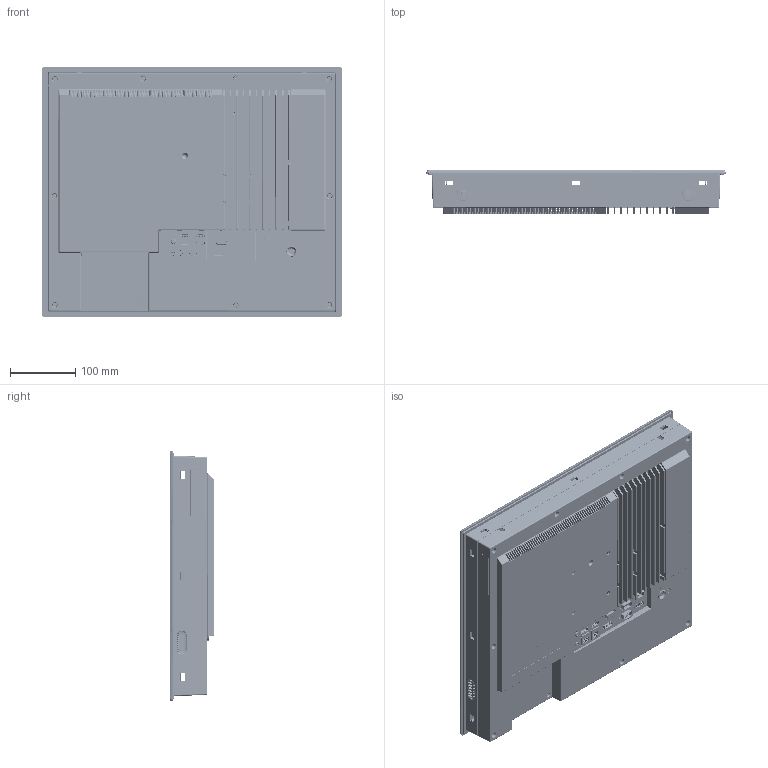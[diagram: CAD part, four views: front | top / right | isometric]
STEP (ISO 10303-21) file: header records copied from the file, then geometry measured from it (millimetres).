
FILE_DESCRIPTION (( 'STEP AP203' ), '1' );
FILE_NAME ('PPC-3190-98.STEP', '2015-09-08T06:20:02', ( 'pc' ), ( '' ), 'SwSTEP 2.0', 'SolidWorks 2013', '' );
FILE_SCHEMA (( 'CONFIG_CONTROL_DESIGN' ));
Length unit declared in the file: millimetre
Products named in the file (44): EMI Bkt11_蕼偞; LED-Board_蕼偞; 1654000098; R0603_105A733019_蕼偞; mask foam H-3190_蕼偞; realcover-ppc-3190_蕼偞; mask3190-id2-20150309_蕼偞; TSL2250.1_蕼偞; st_20131119_1618_0535150_蕼偞; R0603_105A710029_蕼偞; MASK foam-3190_蕼偞; LCD BKT L_蕼偞; mask3190-suoshuiquan-20150309_蕼偞; Wafer-1251-WS-5_蕼偞; HEATSINK-PPC3150_蕼偞; EC_138_BD315_H512_D_1100000193_蕼偞; Lens-3100_蕼偞; LCD BKT R_蕼偞; sujiaomuju-3.9_蕼偞; 翞翐 M3-L 25_蕼偞; C0805_1100005967; ironnet-1_蕼偞; side Door-3190_蕼偞; PPC-3190-98; PCM-8211-1213_蕼偞; C0603_1100000214_蕼偞; BRACKET-EXP CARD-3170_蕼偞; PORON foam-H_蕼偞; bracket for thermal-3150_蕼偞; C0603_1124510290_蕼偞; PPC-3170 bracket IO_蕼偞; PORON foam-V_蕼偞; Wafer-1251-WS-4_蕼偞; PPC-3170-DVT_蕼偞; C0603_1100000405_蕼偞; FIDUCIAL_0060000001; foam-3190_蕼偞; 9680015343-touch_蕼偞; Assm-LED_Board_蕼偞; Speaker-1.1_蕼偞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
Assembly tree (63 placements, depth 4):
  PPC-3190-98
    9680015343-touch_蕼偞
    rubber-3190_蕼偞
    realcover-ppc-3190_蕼偞
    LCD BKT L_蕼偞
    LCD BKT R_蕼偞
    side Door-3190_蕼偞
    foam-3190_蕼偞
      PORON foam-H_蕼偞  x2
      PORON foam-V_蕼偞  x2
    MASK foam-3190_蕼偞
      mask foam V-3190_蕼偞  x2
      mask foam H-3190_蕼偞  x2
    Lens-3100_蕼偞
    ironnet-1_蕼偞
    PPC-3170-DVT_蕼偞
      BRACKET-EXP CARD-3170_蕼偞
      PPC-3170 bracket IO_蕼偞
      st_20131119_1618_0535150_蕼偞
        FIDUCIAL_0060000001  x6
        R0603_105A700009_蕼偞
        R0603_105A733019_蕼偞
        R0603_105A710029_蕼偞  x3
        EC_138_BD315_H512_D_1100000193_蕼偞  x2
        C0805_1100005967  x3
        C0603_1100000214_蕼偞  x4
        C0603_1124510290_蕼偞
        C0603_1100000405_蕼偞
        0010000026_蕼偞  x2
        1654000098  x2
      HEATSINK-PPC3150_蕼偞
      翞翐 M3-L 25_蕼偞
      PCM-8211-1213_蕼偞
      bracket for thermal-3150_蕼偞
    Speaker-1.1_蕼偞  x2
    Assm-LED_Board_蕼偞
      LED-Board_蕼偞
      TSL2250.1_蕼偞
      Wafer-1251-WS-5_蕼偞
      Wafer-1251-WS-4_蕼偞
    EMI Bkt11_蕼偞
    sujiaomuju-3.9_蕼偞
      mask3190-id2-20150309_蕼偞
      mask3190-suoshuiquan-20150309_蕼偞
Bounding box: 458.2 x 67.33 x 384 mm (x, y, z)
Volume: 1799493.8 mm3; surface area: 1407161.6 mm2
Topology: 56 solids, 1062 shells, 16728 faces, 55154 edges, 39153 vertices
Faces by surface type: plane 12221, cylinder 3418, bspline 548, cone 433, torus 107, sphere 1
Entity records: 601864 total; most frequent: CARTESIAN_POINT 166932, ORIENTED_EDGE 84437, DIRECTION 81840, EDGE_CURVE 50518, LINE 37526, VECTOR 37526, VERTEX_POINT 36153, AXIS2_PLACEMENT_3D 22157
